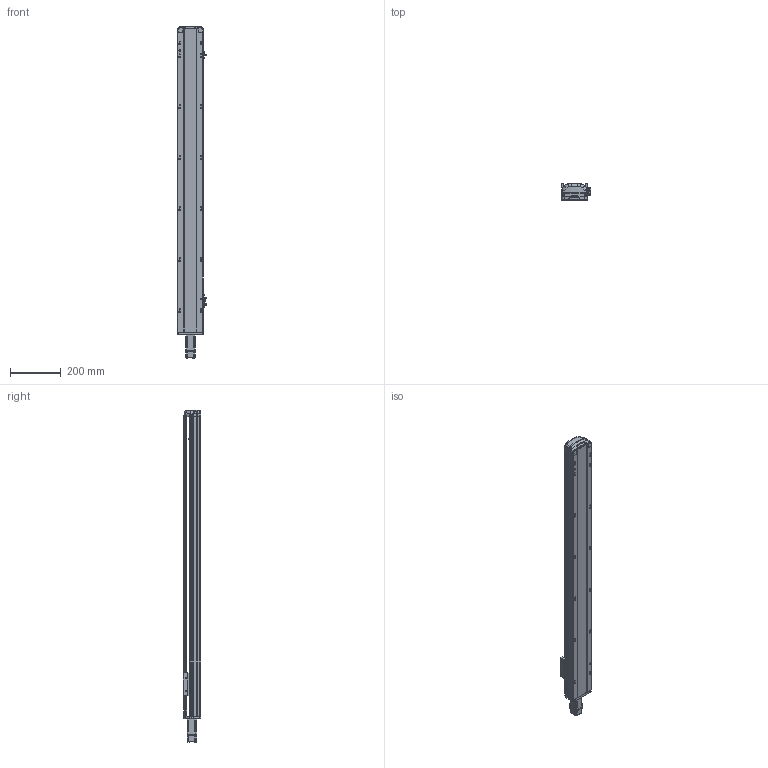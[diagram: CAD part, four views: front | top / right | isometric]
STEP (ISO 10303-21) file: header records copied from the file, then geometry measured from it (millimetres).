
FILE_DESCRIPTION (( 'STEP AP214' ), '1' );
FILE_NAME ('RTH10-XX-950-E-M10-C4.STEP', '2025-10-25T05:27:59', ( 'Microsoft' ), ( 'Microsoft' ), 'SwSTEP 2.0', 'SolidWorks 2018', '' );
FILE_SCHEMA (( 'AUTOMOTIVE_DESIGN' ));
Length unit declared in the file: millimetre
Products named in the file (9): N_OMRON EE-SX672 传感器^RTH10-XX-XX-E-M10-C4; N_RTH12-GY-004-賑釱^RTH10-XX-XX-E-M10-C4; N_P10^RTH10-XX-XX-E-M10-C4; N_RTH12-GY-001P^RTH10-XX-XX-E-M10-C4; N_RTH12-E-008-M10萇儂啣^RTH10-XX-XX-E-M10-C4; N_RTH12-E-011P-臏倰第菁釱^RTH10-XX-XX-E-M10-C4; N_RTH12-E-007P-奻裔^RTH10-XX-XX-E-M10-C4; RTH10-XX-950-E-M10-C4; N_RTH13-L-012覜茼え俋离^RTH10-XX-XX-E-M10-C4
Assembly tree (10 placements, depth 2):
  RTH10-XX-950-E-M10-C4
    N_RTH12-E-011P-臏倰第菁釱^RTH10-XX-XX-E-M10-C4
    N_RTH13-L-012覜茼え俋离^RTH10-XX-XX-E-M10-C4
    N_OMRON EE-SX672 传感器^RTH10-XX-XX-E-M10-C4  x3
    N_P10^RTH10-XX-XX-E-M10-C4
    N_RTH12-E-007P-奻裔^RTH10-XX-XX-E-M10-C4
    N_RTH12-E-008-M10萇儂啣^RTH10-XX-XX-E-M10-C4
    N_RTH12-GY-001P^RTH10-XX-XX-E-M10-C4
    N_RTH12-GY-004-賑釱^RTH10-XX-XX-E-M10-C4
Bounding box: 116.5 x 70 x 1303.34 mm (x, y, z)
Volume: 4739039.3 mm3; surface area: 740528 mm2
Topology: 9 solids, 11 shells, 1992 faces, 5563 edges, 3650 vertices
Faces by surface type: plane 980, cylinder 505, bspline 472, cone 33, torus 2
Entity records: 60283 total; most frequent: CARTESIAN_POINT 23694, ORIENTED_EDGE 8206, DIRECTION 6367, EDGE_CURVE 4109, VERTEX_POINT 2694, VECTOR 2153, LINE 2153, AXIS2_PLACEMENT_3D 2107
